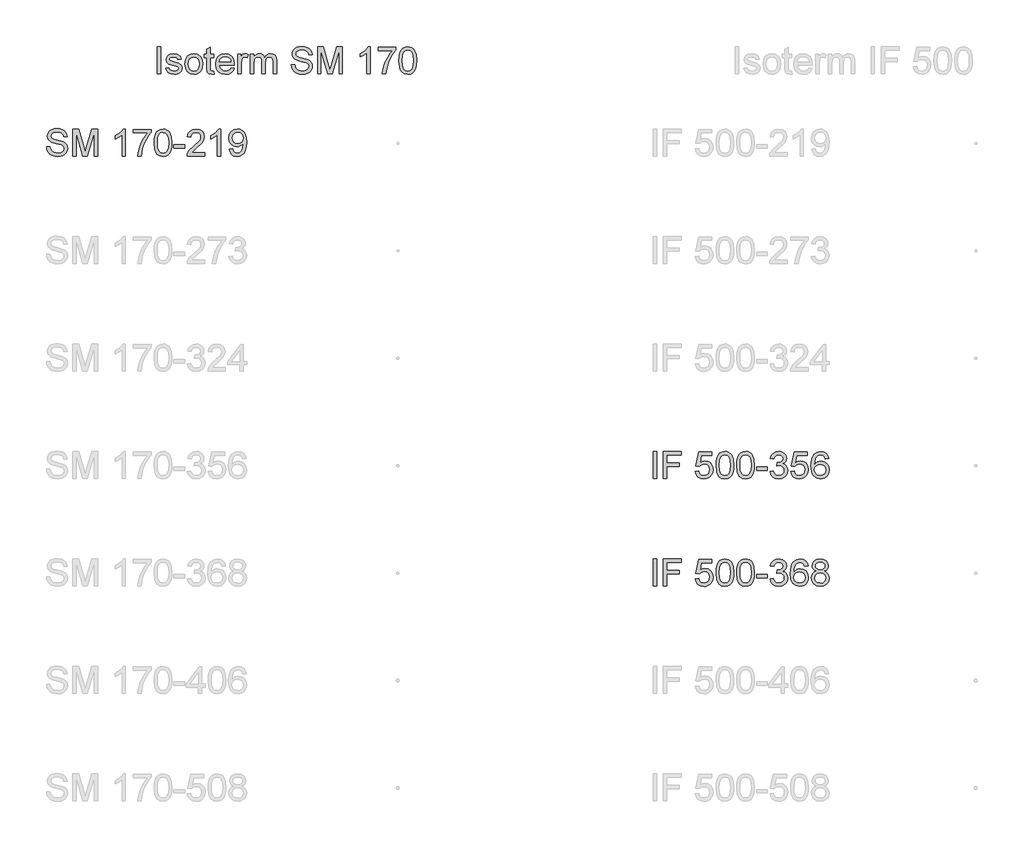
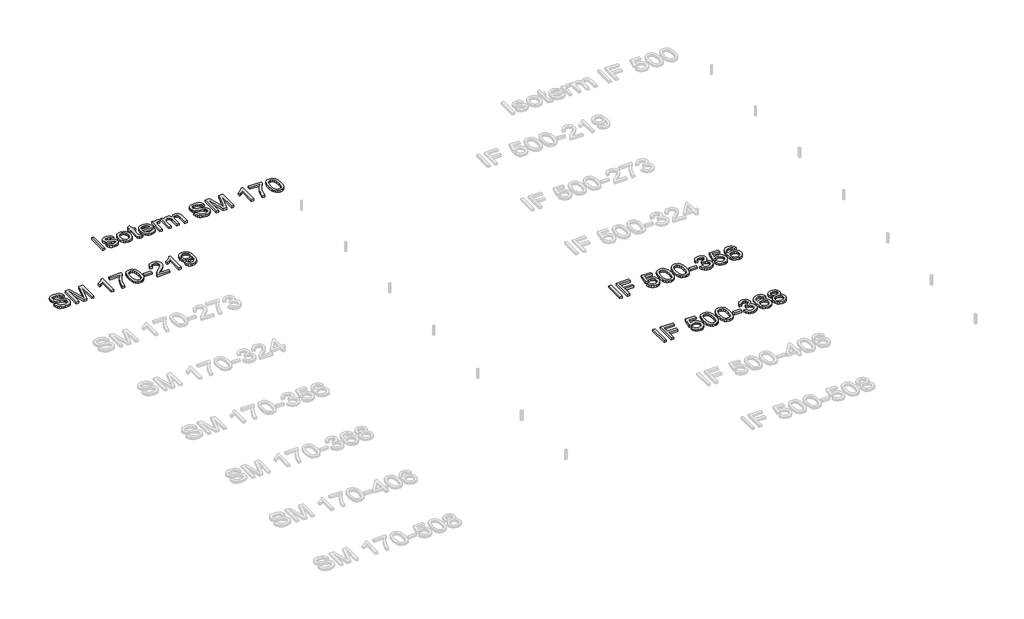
# One storey, part 4 of 10: 4 proxies.
"""IFC4 building model written with IfcOpenShell, lengths in millimetres."""

from ifc_helpers import new_model, si_unit, origin, origin_with_axes, place, context, project, spatial, polyline, outline, extrude, element, save

model = new_model("IFC4")

# Units and contexts
model_context = context("Model", 3, world=origin())
ifc_project = project(units=[si_unit("LENGTHUNIT", "METRE", prefix="MILLI")], contexts=[model_context])

# Site, building, storey
site = spatial("IfcSite", under=ifc_project)
building = spatial("IfcBuilding", under=site)
storey = spatial("IfcBuildingStorey", under=building, Name="Этаж 01", Elevation=0.0)

# Proxies
placement = place(None, origin())
element("IfcBuildingElementProxy", 1, Name="200 мм Arial", ObjectType="200 мм Arial", at=placement, inside=storey, context=model_context, shape_type="SweptSolid", body=[
    extrude(outline(polyline([(362.1098597, -725.9144615), (387.2239373, -725.9144615), (395.3173412, -751.0530645), (403.4475333, -759.9435461), (415.084867, -766.9455667), (429.3096375, -771.4889093), (445.2021397, -773.0033569), (471.4443887, -768.4170947), (488.3914859, -755.811005), (493.9587668, -738.9620096), (489.7894375, -723.2902366), (483.4373417, -717.091425), (472.7197129, -711.8858947), (436.1522426, -702.2964374), (396.7888691, -689.9110769), (384.2870127, -681.4620537), (375.427188, -671.2226715), (370.1480813, -659.4136595), (368.3883791, -646.2557468), (370.5650143, -631.5465984), (377.0949197, -617.8307313), (387.8064171, -606.2056603), (402.5278283, -597.7688998), (420.1984268, -592.636946), (439.7574862, -590.9262947), (460.9474891, -592.7166538), (479.4887417, -598.0877309), (494.7190563, -606.9291615), (505.9762453, -619.130581), (513.1008933, -633.9317), (515.9335846, -650.5722289), (490.8195071, -650.5722289), (486.2087194, -635.5871689), (476.5947366, -624.7714383), (461.5728885, -618.2231388), (440.7385048, -616.0403723), (419.4136118, -618.1986133), (404.7841712, -624.6733364), (396.3228853, -634.2014801), (393.5024567, -645.5199828), (395.5012822, -655.1707538), (401.4977587, -662.9330639), (415.6734782, -669.8737709), (442.5043384, -676.9616307), (486.9444834, -689.5677204), (501.2612244, -698.6789311), (511.2492206, -709.9238574), (517.1169384, -723.179872), (519.0728443, -738.3243475), (516.8226328, -753.8060481), (510.0719982, -768.3680437), (499.096852, -780.900557), (484.1731057, -790.2938107), (466.2265957, -796.1615285), (446.1831584, -798.1174344), (421.5779843, -796.0082443), (401.3260804, -789.680674), (385.1944549, -779.110198), (372.9501159, -764.2722909), (365.0897039, -746.1970222), (362.1098597, -725.9144615)])), origin_with_axes(), (0.0, 0.0, 1.0), 20.0),
    extrude(outline(polyline([(556.7439606, -794.9781747), (556.7439606, -594.0655544), (599.9578323, -594.0655544), (641.0625139, -735.6755971), (649.3521216, -765.2533095), (658.3284422, -733.2230505), (698.7464108, -594.0655544), (741.9602825, -594.0655544), (741.9602825, -794.9781747), (716.8462049, -794.9781747), (716.8462049, -619.179632), (666.3727952, -794.9781747), (632.3314479, -794.9781747), (581.8580382, -619.179632), (581.8580382, -794.9781747), (556.7439606, -794.9781747)])), origin_with_axes(), (0.0, 0.0, 1.0), 20.0),
    extrude(outline(polyline([(949.1514222, -794.9781747), (924.0373446, -794.9781747), (924.0373446, -638.4075976), (900.2476423, -655.3546948), (873.8091896, -668.0343609), (873.8091896, -644.2937095), (910.6219145, -620.7983127), (924.0925269, -607.2234671), (932.9646144, -594.0655544), (949.1514222, -594.0655544), (949.1514222, -794.9781747)])), origin_with_axes(), (0.0, 0.0, 1.0), 20.0),
    extrude(outline(polyline([(1008.7973563, -622.3188917), (1008.7973563, -597.2048141), (1140.6462634, -597.2048141), (1140.6462634, -617.5119003), (1121.8536248, -641.2954712), (1103.2449272, -671.5415026), (1086.8312589, -705.4908794), (1074.623708, -740.3844866), (1065.3040308, -794.9781747), (1040.1899532, -794.9781747), (1042.9061486, -769.091545), (1050.171818, -738.3243475), (1061.7907577, -705.7116086), (1077.566764, -674.2883548), (1095.9853892, -645.8817334), (1115.5321859, -622.3188917), (1008.7973563, -622.3188917)])), origin_with_axes(), (0.0, 0.0, 1.0), 20.0),
    extrude(outline(polyline([(1162.6210812, -696.1405454), (1164.4666226, -663.9815276), (1170.0032466, -638.3340212), (1179.175771, -618.8056186), (1191.9290135, -605.0039124), (1208.3549446, -596.8001439), (1228.5455348, -594.0655544), (1244.021104, -595.6842352), (1257.8779925, -600.5402775), (1269.4662754, -608.4436091), (1278.1360277, -619.2041574), (1289.9082516, -648.9290226), (1294.4699883, -696.1405454), (1292.6428411, -728.1156221), (1287.1613993, -753.7018149), (1278.0440572, -773.2486115), (1265.3092088, -787.1055), (1248.8464895, -795.3644508), (1228.5455348, -798.1174344), (1202.4504386, -793.3349685), (1182.6338618, -778.9875707), (1173.8782703, -763.8584236), (1167.6242764, -745.007537), (1162.6210812, -696.1405454)]), holes=[polyline([(1187.7351588, -696.0914944), (1190.6782147, -735.5958893), (1199.5073826, -758.4597553), (1212.6530326, -769.3674565), (1228.5455348, -773.0033569), (1244.438037, -769.3551938), (1257.5836869, -758.4107044), (1266.4128548, -735.5345757), (1269.3559108, -696.0914944), (1266.5109567, -657.4761477), (1257.9760944, -634.434472), (1244.8549699, -622.993342), (1228.2512292, -619.179632), (1212.5304052, -622.5396209), (1199.8997901, -632.6195875), (1190.7763166, -657.0960029), (1187.7351588, -696.0914944)])]), origin_with_axes(), (0.0, 0.0, 1.0), 20.0),
    extrude(outline(polyline([(1310.1662868, -735.3322406), (1310.1662868, -710.218163), (1388.6477791, -710.218163), (1388.6477791, -735.3322406), (1310.1662868, -735.3322406)])), origin_with_axes(), (0.0, 0.0, 1.0), 20.0),
    extrude(outline(polyline([(1539.3322443, -769.8640972), (1539.3322443, -794.9781747), (1407.4833372, -794.9781747), (1410.1811385, -777.6631955), (1425.4359786, -751.0040136), (1456.8776264, -721.892285), (1500.2386509, -680.0518394), (1508.368843, -665.6308652), (1511.0789071, -651.6022985), (1508.5221272, -639.0268656), (1500.8517876, -628.5728856), (1489.0611697, -621.5279454), (1474.1435548, -619.179632), (1458.4779131, -621.4727631), (1446.3071504, -628.3521564), (1438.4528699, -639.2782516), (1435.7366745, -653.7114886), (1410.6225969, -650.5722289), (1416.7110439, -626.2797545), (1429.875088, -608.5355796), (1449.428016, -597.6830607), (1474.683115, -594.0655544), (1500.122155, -598.0877309), (1519.6382948, -610.1542603), (1532.0543122, -628.1804781), (1536.1929846, -650.0817196), (1531.7293497, -673.8959474), (1516.8914426, -698.5195156), (1480.9125835, -732.9287449), (1452.0215841, -757.0863292), (1440.6908187, -769.8640972), (1539.3322443, -769.8640972)])), origin_with_axes(), (0.0, 0.0, 1.0), 20.0),
    extrude(outline(polyline([(1658.6241126, -794.9781747), (1633.5100351, -794.9781747), (1633.5100351, -638.4075976), (1609.7203327, -655.3546948), (1583.28188, -668.0343609), (1583.28188, -644.2937095), (1620.094605, -620.7983127), (1633.5652174, -607.2234671), (1642.4373048, -594.0655544), (1658.6241126, -594.0655544), (1658.6241126, -794.9781747)])), origin_with_axes(), (0.0, 0.0, 1.0), 20.0),
    extrude(outline(polyline([(1721.4093064, -744.7500196), (1746.523384, -741.61076), (1750.8153406, -755.8661873), (1757.8050985, -765.5721406), (1767.3209794, -771.1455528), (1779.1913052, -773.0033569), (1799.5229168, -768.2208909), (1813.3062288, -755.443123), (1821.5222601, -733.6154579), (1825.1520291, -704.4792039), (1825.0048763, -699.5741106), (1816.3044671, -710.1936376), (1804.9185193, -718.6058725), (1791.6686362, -724.0873143), (1777.3764206, -725.9144615), (1754.4757664, -721.4508266), (1735.4133477, -708.059922), (1722.555872, -687.3726911), (1718.2700468, -661.0200775), (1722.7643385, -633.7968099), (1736.2472136, -612.4596542), (1756.4991174, -598.6640794), (1781.3004953, -594.0655544), (1800.0318202, -596.6897793), (1817.0831507, -604.562454), (1831.3447093, -617.2911711), (1841.7067189, -634.483523), (1848.0158951, -658.2486999), (1850.1189538, -690.6958918), (1848.0220264, -725.0989897), (1841.7312443, -751.6907266), (1831.3017898, -771.6728503), (1816.7888451, -786.2471087), (1798.8178096, -795.149853), (1778.0140828, -798.1174344), (1756.542037, -794.6164241), (1739.4109987, -784.1133931), (1727.4303084, -767.2705291), (1721.4093064, -744.7500196)]), holes=[polyline([(1825.0048763, -660.4314664), (1822.2948123, -643.4107927), (1814.1646202, -630.3141937), (1801.5462677, -621.9632724), (1785.3717227, -619.179632), (1768.5963037, -622.1778702), (1755.1563481, -631.172585), (1746.3271802, -644.937503), (1743.3841243, -662.2463509), (1746.1677647, -677.7648397), (1754.518686, -690.0827552), (1767.6275478, -698.1209768), (1784.6850096, -700.800384), (1800.730796, -698.1209768), (1813.6495854, -690.0827552), (1822.1660536, -677.3111186), (1825.0048763, -660.4314664)])]), origin_with_axes(), (0.0, 0.0, 1.0), 20.0),
])
element("IfcBuildingElementProxy", 2, Name="200 мм Arial", ObjectType="200 мм Arial", at=placement, inside=storey, context=model_context, shape_type="SweptSolid", body=[
    extrude(outline(polyline([(1184.860356, -183.6730679), (1184.860356, 17.2395524), (1209.9744335, 17.2395524), (1209.9744335, -183.6730679), (1184.860356, -183.6730679)])), origin_with_axes(), (0.0, 0.0, 1.0), 20.0),
    extrude(outline(polyline([(1247.6455499, -139.7234322), (1272.7596274, -136.5841725), (1276.7204902, -147.3263267), (1284.3846984, -155.2235269), (1295.801303, -160.0795692), (1311.0193549, -161.69825), (1326.0534658, -160.2144593), (1336.6239418, -155.7630872), (1342.8779357, -149.3128895), (1344.9626003, -141.8326223), (1342.8656729, -135.4314756), (1336.5748908, -130.5509078), (1310.7250493, -123.3894716), (1272.9067802, -111.102213), (1263.3357169, -104.9279268), (1256.4011413, -96.7548151), (1250.7848095, -76.4967799), (1255.2974954, -57.7838491), (1267.6092795, -43.4855022), (1283.575358, -36.0542859), (1305.1822939, -32.9886026), (1335.741025, -37.9182214), (1347.1698923, -43.7184942), (1355.1651943, -51.2600751), (1363.7981585, -73.7989786), (1338.6840809, -76.9382383), (1335.5141644, -69.0349068), (1329.2417764, -63.0813498), (1307.1443312, -58.1026802), (1292.723357, -59.2921653), (1283.1093742, -62.8606207), (1277.7015089, -68.0109686), (1275.8988871, -73.9461314), (1278.890994, -81.2547204), (1288.2597221, -86.7974758), (1309.8911834, -92.1440275), (1346.7529594, -103.9653022), (1363.8717349, -117.3562069), (1368.5254421, -127.2031816), (1370.0766778, -139.1838719), (1368.255662, -151.5692324), (1362.7926143, -163.2188289), (1353.8960014, -173.2190878), (1341.7742897, -180.6564355), (1327.1325863, -185.2733545), (1310.6759984, -186.8123276), (1285.3534544, -183.8447461), (1266.8735155, -174.9420018), (1254.5372059, -160.2021966), (1247.6455499, -139.7234322)])), origin_with_axes(), (0.0, 0.0, 1.0), 20.0),
    extrude(outline(polyline([(1392.0514957, -109.9004651), (1397.4838865, -74.3262762), (1404.274375, -60.5031102), (1413.7810589, -49.3225632), (1433.9164667, -37.0720928), (1458.0250002, -32.9886026), (1484.4082706, -37.9611409), (1505.4817775, -52.8787558), (1519.2957465, -76.564225), (1523.9004028, -107.8403259), (1521.8647891, -133.2119209), (1515.7579479, -152.5257256), (1505.757689, -166.9896194), (1492.041822, -177.8114814), (1475.750781, -184.562116), (1458.0250002, -186.8123276), (1431.3228987, -181.8581834), (1410.2739172, -166.9957508), (1396.6071011, -142.8136409), (1392.0514957, -109.9004651)]), holes=[polyline([(1417.1655732, -109.8514142), (1420.071841, -132.5803901), (1428.7906443, -148.7733293), (1441.9117688, -158.4670198), (1458.0250002, -161.69825), (1474.0646552, -158.4486257), (1487.1612542, -148.6997529), (1495.8800575, -132.2922159), (1498.7863252, -109.0665992), (1495.8616634, -86.9998109), (1487.0876778, -71.0276009), (1473.9726847, -61.3339104), (1458.0250002, -58.1026802), (1441.9117688, -61.3216476), (1428.7906443, -70.97855), (1420.071841, -87.134701), (1417.1655732, -109.8514142)])]), origin_with_axes(), (0.0, 0.0, 1.0), 20.0),
    extrude(outline(polyline([(1605.5211548, -162.7283196), (1608.6604145, -184.4088319), (1589.8739072, -186.8123276), (1568.8310571, -182.6429983), (1558.3341575, -171.7046403), (1555.2929997, -143.2060484), (1555.2929997, -61.2419399), (1536.4574415, -61.2419399), (1536.4574415, -36.1278623), (1555.2929997, -36.1278623), (1555.2929997, -0.2716305), (1580.4070772, 14.4927002), (1580.4070772, -36.1278623), (1605.5211548, -36.1278623), (1605.5211548, -61.2419399), (1580.4070772, -61.2419399), (1580.4070772, -142.4702844), (1581.7314524, -155.4197306), (1586.023409, -160.0059928), (1594.5827968, -161.69825), (1605.5211548, -162.7283196)])), origin_with_axes(), (0.0, 0.0, 1.0), 20.0),
    extrude(outline(polyline([(1733.9364965, -139.7234322), (1758.5600648, -142.8626919), (1749.6879773, -161.4162072), (1735.5306519, -175.2853584), (1716.4069195, -183.9305853), (1692.6356112, -186.8123276), (1663.1682634, -181.8397893), (1640.4944698, -166.9221744), (1626.0367074, -143.0282388), (1621.2174532, -111.1267384), (1626.0857583, -78.1522489), (1640.6906735, -53.4918925), (1663.0578988, -38.1144251), (1691.2131342, -32.9886026), (1718.4915841, -38.1021624), (1740.2885923, -53.4428416), (1754.5808078, -78.0541471), (1759.3448797, -110.9795856), (1759.1977269, -117.7486143), (1646.3315308, -117.7486143), (1650.6786697, -136.5473843), (1660.7770304, -150.3674846), (1675.3512888, -158.8655587), (1693.1261205, -161.69825), (1717.7496888, -156.4498002), (1726.8976877, -149.6439833), (1733.9364965, -139.7234322)]), holes=[polyline([(1646.3315308, -92.6345368), (1734.2308021, -92.6345368), (1730.8340251, -79.3662595), (1724.1753609, -69.874904), (1709.5336575, -61.0457361), (1691.1150323, -58.1026802), (1674.1863292, -60.4509936), (1660.1884192, -67.4959338), (1650.4579405, -78.4772113), (1646.3315308, -92.6345368)])]), origin_with_axes(), (0.0, 0.0, 1.0), 20.0),
    extrude(outline(polyline([(1784.4589572, -183.6730679), (1784.4589572, -36.1278623), (1806.4337751, -36.1278623), (1806.4337751, -57.9555274), (1822.0319717, -37.844645), (1837.7282701, -32.9886026), (1850.236258, -34.9261145), (1862.9404495, -40.73865), (1854.55274, -63.2530281), (1836.8944043, -58.1026802), (1822.6941592, -63.0568244), (1813.6442622, -76.7910855), (1809.5730348, -106.1235433), (1809.5730348, -183.6730679), (1784.4589572, -183.6730679)])), origin_with_axes(), (0.0, 0.0, 1.0), 20.0),
    extrude(outline(polyline([(1878.636748, -183.6730679), (1878.636748, -36.1278623), (1903.7508255, -36.1278623), (1903.7508255, -60.408074), (1911.3046692, -49.2551182), (1921.0167538, -40.5179208), (1932.5559857, -34.8709322), (1945.5912711, -32.9886026), (1959.5585242, -34.9077204), (1970.7543996, -40.6650736), (1979.1175836, -49.8805176), (1984.5867626, -62.1739076), (1993.7408929, -49.4053367), (2004.1826102, -40.2849289), (2015.9119145, -34.8126842), (2028.9288057, -32.9886026), (2047.8072835, -36.0236291), (2061.7684052, -45.1287085), (2070.395238, -60.5490954), (2073.2708489, -82.5300447), (2073.2708489, -183.6730679), (2048.1567714, -183.6730679), (2048.1567714, -93.3212499), (2045.8268521, -72.3519761), (2037.3900916, -62.0267548), (2023.0426938, -58.1026802), (2009.4371914, -60.6165405), (1998.3455492, -68.1581214), (1990.9695152, -81.2424577), (1988.5108372, -100.3845842), (1988.5108372, -183.6730679), (1963.3967597, -183.6730679), (1963.3967597, -90.5253467), (1961.9436258, -76.3251017), (1957.5842241, -66.1960841), (1949.9138845, -60.1260312), (1938.5279368, -58.1026802), (1919.9376333, -63.4982828), (1912.5799934, -70.1446842), (1907.5767983, -79.2926831), (1903.7508255, -109.262803), (1903.7508255, -183.6730679), (1878.636748, -183.6730679)])), origin_with_axes(), (0.0, 0.0, 1.0), 20.0),
    extrude(outline(polyline([(2183.1449381, -114.6093546), (2208.2590157, -114.6093546), (2216.3524196, -139.7479576), (2224.4826116, -148.6384392), (2236.1199454, -155.6404598), (2250.3447159, -160.1838025), (2266.2372181, -161.69825), (2292.4794671, -157.1119878), (2309.4265643, -144.5058981), (2314.9938452, -127.6569027), (2310.8245159, -111.9851297), (2304.4724201, -105.7863181), (2293.7547913, -100.5807879), (2257.187321, -90.9913306), (2217.8239475, -78.60597), (2205.3220911, -70.1569469), (2196.4622663, -59.9175647), (2191.1831597, -48.1085526), (2189.4234575, -34.95064), (2191.6000926, -20.2414915), (2198.1299981, -6.5256245), (2208.8414955, 5.0994466), (2223.5629067, 13.536207), (2241.2335052, 18.6681608), (2260.7925646, 20.3788121), (2281.9825675, 18.5884531), (2300.52382, 13.217376), (2315.7541346, 4.3759453), (2327.0113237, -7.8254742), (2334.1359717, -22.6265931), (2336.968663, -39.267122), (2311.8545855, -39.267122), (2307.2437978, -24.2820621), (2297.629815, -13.4663314), (2282.6079669, -6.9180319), (2261.7735832, -4.7352654), (2240.4486902, -6.8935065), (2225.8192496, -13.3682296), (2217.3579637, -22.8963732), (2214.537535, -34.214876), (2216.5363606, -43.865647), (2222.5328371, -51.6279571), (2236.7085566, -58.568664), (2263.5394168, -65.6565238), (2307.9795618, -78.2626135), (2322.2963028, -87.3738243), (2332.284299, -98.6187506), (2338.1520168, -111.8747651), (2340.1079227, -127.0192406), (2337.8577112, -142.5009412), (2331.1070766, -157.0629369), (2320.1319304, -169.5954502), (2305.2081841, -178.9887038), (2287.2616741, -184.8564216), (2267.2182368, -186.8123276), (2242.6130626, -184.7031375), (2222.3611588, -178.3755671), (2206.2295333, -167.8050911), (2193.9851942, -152.967184), (2186.1247823, -134.8919153), (2183.1449381, -114.6093546)])), origin_with_axes(), (0.0, 0.0, 1.0), 20.0),
    extrude(outline(polyline([(2377.779039, -183.6730679), (2377.779039, 17.2395524), (2420.9929107, 17.2395524), (2462.0975923, -124.3704902), (2470.3872, -153.9482027), (2479.3635206, -121.9179436), (2519.7814892, 17.2395524), (2562.9953609, 17.2395524), (2562.9953609, -183.6730679), (2537.8812833, -183.6730679), (2537.8812833, -7.8745251), (2487.4078736, -183.6730679), (2453.3665263, -183.6730679), (2402.8931166, -7.8745251), (2402.8931166, -183.6730679), (2377.779039, -183.6730679)])), origin_with_axes(), (0.0, 0.0, 1.0), 20.0),
    extrude(outline(polyline([(2770.1865006, -183.6730679), (2745.072423, -183.6730679), (2745.072423, -27.1024907), (2721.2827207, -44.049588), (2694.8442679, -56.7292541), (2694.8442679, -32.9886026), (2731.6569929, -9.4932059), (2745.1276053, 4.0816397), (2753.9996928, 17.2395524), (2770.1865006, 17.2395524), (2770.1865006, -183.6730679)])), origin_with_axes(), (0.0, 0.0, 1.0), 20.0),
    extrude(outline(polyline([(2829.8324347, -11.0137848), (2829.8324347, 14.1002927), (2961.6813418, 14.1002927), (2961.6813418, -6.2067934), (2942.8887032, -29.9903644), (2924.2800056, -60.2363958), (2907.8663373, -94.1857725), (2895.6587864, -129.0793798), (2886.3391092, -183.6730679), (2861.2250316, -183.6730679), (2863.941227, -157.7864381), (2871.2068964, -127.0192406), (2882.8258361, -94.4065017), (2898.6018423, -62.983248), (2917.0204676, -34.5766266), (2936.5672642, -11.0137848), (2829.8324347, -11.0137848)])), origin_with_axes(), (0.0, 0.0, 1.0), 20.0),
    extrude(outline(polyline([(2983.6561596, -84.8354385), (2985.501701, -52.6764208), (2991.038325, -27.0289143), (3000.2108494, -7.5005117), (3012.9640919, 6.3011944), (3029.390023, 14.5049629), (3049.5806132, 17.2395524), (3065.0561824, 15.6208717), (3078.9130709, 10.7648293), (3090.5013538, 2.8614978), (3099.1711061, -7.8990506), (3110.94333, -37.6239158), (3115.5050667, -84.8354385), (3113.6779195, -116.8105152), (3108.1964777, -142.396708), (3099.0791356, -161.9435047), (3086.3442872, -175.8003932), (3069.8815679, -184.059344), (3049.5806132, -186.8123276), (3023.485517, -182.0298616), (3003.6689402, -167.6824638), (2994.9133487, -152.5533168), (2988.6593548, -133.7024302), (2983.6561596, -84.8354385)]), holes=[polyline([(3008.7702372, -84.7863876), (3011.7132931, -124.2907825), (3020.542461, -147.1546485), (3033.688111, -158.0623496), (3049.5806132, -161.69825), (3065.4731154, -158.0500869), (3078.6187653, -147.1055975), (3087.4479332, -124.2294688), (3090.3909892, -84.7863876), (3087.5460351, -46.1710408), (3079.0111728, -23.1293652), (3065.8900483, -11.6882351), (3049.2863076, -7.8745251), (3033.5654836, -11.234514), (3020.9348685, -21.3144807), (3011.811395, -45.7908961), (3008.7702372, -84.7863876)])]), origin_with_axes(), (0.0, 0.0, 1.0), 20.0),
])
element("IfcBuildingElementProxy", 3, Name="200 мм Arial", ObjectType="200 мм Arial", at=placement, inside=storey, context=model_context, shape_type="SweptSolid", body=[
    extrude(outline(polyline([(4874.6668985, -3194.9781747), (4874.6668985, -2994.0655544), (4899.780976, -2994.0655544), (4899.780976, -3194.9781747), (4874.6668985, -3194.9781747)])), origin_with_axes(), (0.0, 0.0, 1.0), 20.0),
    extrude(outline(polyline([(4950.0091311, -3194.9781747), (4950.0091311, -2994.0655544), (5084.9972979, -2994.0655544), (5084.9972979, -3019.179632), (4975.1232086, -3019.179632), (4975.1232086, -3078.8255661), (5069.3009994, -3078.8255661), (5069.3009994, -3103.9396437), (4975.1232086, -3103.9396437), (4975.1232086, -3194.9781747), (4950.0091311, -3194.9781747)])), origin_with_axes(), (0.0, 0.0, 1.0), 20.0),
    extrude(outline(polyline([(5188.5928677, -3141.61076), (5213.7069453, -3138.4715003), (5218.3177329, -3153.5485307), (5226.3620859, -3164.3458673), (5237.8032159, -3170.8389845), (5252.6043349, -3173.0033569), (5270.6060272, -3169.9928559), (5284.0950337, -3160.9613529), (5292.5195314, -3146.9511803), (5295.3276973, -3129.0046703), (5292.697341, -3112.1066239), (5284.8062722, -3099.1817032), (5271.5931772, -3090.9779347), (5252.9967423, -3088.2433452), (5230.9483481, -3092.6088782), (5216.8462049, -3103.9396437), (5191.7321274, -3100.800384), (5213.7069453, -2997.2048141), (5311.0239957, -2997.2048141), (5311.0239957, -3022.3188917), (5234.0140314, -3022.3188917), (5223.2718771, -3077.6483437), (5241.2122558, -3066.7590367), (5260.0110257, -3063.1292677), (5283.4757656, -3067.6296907), (5302.9551173, -3081.13096), (5316.0701104, -3101.7078262), (5320.4417748, -3127.4350404), (5316.5054374, -3152.5491179), (5304.6964254, -3174.0334265), (5294.2608395, -3184.5701799), (5282.0839454, -3192.0964324), (5268.1657433, -3196.6121839), (5252.506233, -3198.1174344), (5227.8397452, -3194.2485421), (5208.1887153, -3182.6418652), (5194.7181029, -3164.6463042), (5188.5928677, -3141.61076)])), origin_with_axes(), (0.0, 0.0, 1.0), 20.0),
    extrude(outline(polyline([(5342.4165926, -3096.1405454), (5344.262134, -3063.9815276), (5349.798758, -3038.3340212), (5358.9712824, -3018.8056186), (5371.7245249, -3005.0039124), (5388.150456, -2996.8001439), (5408.3410462, -2994.0655544), (5423.8166154, -2995.6842352), (5437.6735039, -3000.5402775), (5449.2617868, -3008.4436091), (5457.9315391, -3019.2041574), (5469.703763, -3048.9290226), (5474.2654997, -3096.1405454), (5472.4383525, -3128.1156221), (5466.9569107, -3153.7018149), (5457.8395686, -3173.2486115), (5445.1047202, -3187.1055), (5428.6420009, -3195.3644508), (5408.3410462, -3198.1174344), (5382.24595, -3193.3349685), (5362.4293732, -3178.9875707), (5353.6737817, -3163.8584236), (5347.4197878, -3145.007537), (5342.4165926, -3096.1405454)]), holes=[polyline([(5367.5306702, -3096.0914944), (5370.4737261, -3135.5958893), (5379.302894, -3158.4597553), (5392.448544, -3169.3674565), (5408.3410462, -3173.0033569), (5424.2335484, -3169.3551938), (5437.3791983, -3158.4107044), (5446.2083662, -3135.5345757), (5449.1514222, -3096.0914944), (5446.3064681, -3057.4761477), (5437.7716058, -3034.434472), (5424.6504813, -3022.993342), (5408.0467406, -3019.179632), (5392.3259166, -3022.5396209), (5379.6953015, -3032.6195875), (5370.571828, -3057.0960029), (5367.5306702, -3096.0914944)])]), origin_with_axes(), (0.0, 0.0, 1.0), 20.0),
    extrude(outline(polyline([(5496.2403175, -3096.1405454), (5498.0858589, -3063.9815276), (5503.6224829, -3038.3340212), (5512.7950073, -3018.8056186), (5525.5482498, -3005.0039124), (5541.9741809, -2996.8001439), (5562.1647711, -2994.0655544), (5577.6403403, -2995.6842352), (5591.4972288, -3000.5402775), (5603.0855117, -3008.4436091), (5611.755264, -3019.2041574), (5623.5274879, -3048.9290226), (5628.0892246, -3096.1405454), (5626.2620774, -3128.1156221), (5620.7806357, -3153.7018149), (5611.6632935, -3173.2486115), (5598.9284451, -3187.1055), (5582.4657259, -3195.3644508), (5562.1647711, -3198.1174344), (5536.0696749, -3193.3349685), (5516.2530981, -3178.9875707), (5507.4975066, -3163.8584236), (5501.2435127, -3145.007537), (5496.2403175, -3096.1405454)]), holes=[polyline([(5521.3543951, -3096.0914944), (5524.297451, -3135.5958893), (5533.1266189, -3158.4597553), (5546.2722689, -3169.3674565), (5562.1647711, -3173.0033569), (5578.0572733, -3169.3551938), (5591.2029232, -3158.4107044), (5600.0320911, -3135.5345757), (5602.9751471, -3096.0914944), (5600.130193, -3057.4761477), (5591.5953307, -3034.434472), (5578.4742062, -3022.993342), (5561.8704655, -3019.179632), (5546.1496416, -3022.5396209), (5533.5190264, -3032.6195875), (5524.3955529, -3057.0960029), (5521.3543951, -3096.0914944)])]), origin_with_axes(), (0.0, 0.0, 1.0), 20.0),
    extrude(outline(polyline([(5643.7855231, -3135.3322406), (5643.7855231, -3110.218163), (5722.2670154, -3110.218163), (5722.2670154, -3135.3322406), (5643.7855231, -3135.3322406)])), origin_with_axes(), (0.0, 0.0, 1.0), 20.0),
    extrude(outline(polyline([(5744.2418332, -3141.61076), (5769.3559108, -3138.4715003), (5774.9783739, -3154.2536379), (5783.2127993, -3164.909953), (5794.4638569, -3170.9800059), (5809.1362172, -3173.0033569), (5826.3530946, -3170.2197164), (5839.6458973, -3161.8687952), (5848.1439714, -3149.4098583), (5850.9766628, -3134.302171), (5848.1684969, -3119.9609045), (5839.7439992, -3108.3297021), (5826.9907567, -3100.6225743), (5811.1963564, -3098.0535317), (5793.5870715, -3100.800384), (5796.3829747, -3075.6863064), (5800.4051512, -3075.980612), (5815.4515248, -3074.1779902), (5828.9037431, -3068.7701249), (5838.3950985, -3059.622126), (5841.5588837, -3046.5991033), (5839.2657526, -3035.7527158), (5832.3863593, -3026.9542048), (5821.8894597, -3021.1232752), (5808.7438097, -3019.179632), (5795.5736343, -3021.1416693), (5784.8069546, -3027.0277812), (5776.9465426, -3036.8379677), (5772.4951705, -3050.5722289), (5747.3810929, -3047.4329692), (5754.775521, -3024.8818029), (5767.9334337, -3008.0450702), (5785.935126, -2997.5604334), (5807.8608929, -2994.0655544), (5823.6491619, -2995.7884684), (5838.1498439, -3000.9572105), (5850.3757888, -3009.111928), (5859.3398468, -3019.7927686), (5864.8396826, -3032.0984214), (5866.6729612, -3045.1275754), (5864.9316531, -3057.2676812), (5859.7077288, -3068.2796156), (5851.0747646, -3077.6606065), (5839.1063371, -3084.9078818), (5854.827161, -3091.2599776), (5866.4767575, -3102.0757082), (5873.6872446, -3116.7664625), (5876.0907403, -3134.7436294), (5871.2837489, -3159.2200448), (5856.8627747, -3179.6742837), (5835.0964233, -3193.5066467), (5808.2533004, -3198.1174344), (5783.9730887, -3194.1810971), (5764.2055628, -3182.372085), (5750.459039, -3164.3090791), (5744.2418332, -3141.61076)])), origin_with_axes(), (0.0, 0.0, 1.0), 20.0),
    extrude(outline(polyline([(5898.0655581, -3141.61076), (5923.1796357, -3138.4715003), (5927.7904234, -3153.5485307), (5935.8347763, -3164.3458673), (5947.2759064, -3170.8389845), (5962.0770253, -3173.0033569), (5980.0787176, -3169.9928559), (5993.5677241, -3160.9613529), (6001.9922218, -3146.9511803), (6004.8003877, -3129.0046703), (6002.1700314, -3112.1066239), (5994.2789626, -3099.1817032), (5981.0658676, -3090.9779347), (5962.4694328, -3088.2433452), (5940.4210385, -3092.6088782), (5926.3188954, -3103.9396437), (5901.2048178, -3100.800384), (5923.1796357, -2997.2048141), (6020.4966861, -2997.2048141), (6020.4966861, -3022.3188917), (5943.4867218, -3022.3188917), (5932.7445676, -3077.6483437), (5950.6849462, -3066.7590367), (5969.4837161, -3063.1292677), (5992.9484561, -3067.6296907), (6012.4278077, -3081.13096), (6025.5428008, -3101.7078262), (6029.9144652, -3127.4350404), (6025.9781279, -3152.5491179), (6014.1691158, -3174.0334265), (6003.7335299, -3184.5701799), (5991.5566359, -3192.0964324), (5977.6384337, -3196.6121839), (5961.9789234, -3198.1174344), (5937.3124357, -3194.2485421), (5917.6614058, -3182.6418652), (5904.1907934, -3164.6463042), (5898.0655581, -3141.61076)])), origin_with_axes(), (0.0, 0.0, 1.0), 20.0),
    extrude(outline(polyline([(6180.5989304, -3047.4329692), (6155.4848529, -3050.5722289), (6145.968972, -3029.6274806), (6134.5768928, -3021.7915941), (6120.8058435, -3019.179632), (6098.1443126, -3025.2619476), (6088.7081394, -3034.8697991), (6081.0010116, -3048.0951568), (6075.7954814, -3066.8019562), (6073.8641009, -3092.8541329), (6083.9379362, -3081.1003031), (6096.010597, -3072.8168269), (6109.407633, -3067.9056022), (6123.4545939, -3066.2685273), (6146.655685, -3070.744425), (6166.1289053, -3084.1721178), (6179.3358689, -3104.6876704), (6183.7381901, -3130.4271473), (6181.6657882, -3148.4104455), (6175.4485825, -3165.0816312), (6165.6016078, -3179.2205626), (6152.6398988, -3189.6070976), (6137.1520668, -3195.9898502), (6119.726723, -3198.1174344), (6091.2342624, -3192.4765772), (6068.5420747, -3175.5540054), (6059.8830523, -3162.4451436), (6053.6980362, -3145.6819874), (6048.7500234, -3101.1927914), (6054.2437278, -3051.1731028), (6061.1108584, -3032.0953557), (6070.7248412, -3016.97234), (6081.1450987, -3006.9506213), (6093.2269566, -2999.7922508), (6122.3754733, -2994.0655544), (6144.4116049, -2997.6094843), (6162.0576779, -3008.241274), (6174.4185129, -3025.1270576), (6180.5989304, -3047.4329692)]), holes=[polyline([(6073.8641009, -3130.0347398), (6079.6766364, -3151.7888285), (6095.1276802, -3167.5832288), (6117.7646857, -3173.0033569), (6134.3377696, -3170.195191), (6147.3669235, -3161.7706933), (6155.8098153, -3148.5269415), (6158.6241126, -3131.2610132), (6155.8466035, -3114.6879293), (6147.5140763, -3102.0511827), (6134.2641932, -3094.0497493), (6116.7346161, -3091.3826049), (6100.1860577, -3094.0497493), (6086.3475633, -3102.0511827), (6076.9849665, -3114.3813609), (6073.8641009, -3130.0347398)])]), origin_with_axes(), (0.0, 0.0, 1.0), 20.0),
])
element("IfcBuildingElementProxy", 4, Name="200 мм Arial", ObjectType="200 мм Arial", at=placement, inside=storey, context=model_context, shape_type="SweptSolid", body=[
    extrude(outline(polyline([(4874.6668985, -3994.9781747), (4874.6668985, -3794.0655544), (4899.780976, -3794.0655544), (4899.780976, -3994.9781747), (4874.6668985, -3994.9781747)])), origin_with_axes(), (0.0, 0.0, 1.0), 20.0),
    extrude(outline(polyline([(4950.0091311, -3994.9781747), (4950.0091311, -3794.0655544), (5084.9972979, -3794.0655544), (5084.9972979, -3819.179632), (4975.1232086, -3819.179632), (4975.1232086, -3878.8255661), (5069.3009994, -3878.8255661), (5069.3009994, -3903.9396437), (4975.1232086, -3903.9396437), (4975.1232086, -3994.9781747), (4950.0091311, -3994.9781747)])), origin_with_axes(), (0.0, 0.0, 1.0), 20.0),
    extrude(outline(polyline([(5188.5928677, -3941.61076), (5213.7069453, -3938.4715003), (5218.3177329, -3953.5485307), (5226.3620859, -3964.3458673), (5237.8032159, -3970.8389845), (5252.6043349, -3973.0033569), (5270.6060272, -3969.9928559), (5284.0950337, -3960.9613529), (5292.5195314, -3946.9511803), (5295.3276973, -3929.0046703), (5292.697341, -3912.1066239), (5284.8062722, -3899.1817032), (5271.5931772, -3890.9779347), (5252.9967423, -3888.2433452), (5230.9483481, -3892.6088782), (5216.8462049, -3903.9396437), (5191.7321274, -3900.800384), (5213.7069453, -3797.2048141), (5311.0239957, -3797.2048141), (5311.0239957, -3822.3188917), (5234.0140314, -3822.3188917), (5223.2718771, -3877.6483437), (5241.2122558, -3866.7590367), (5260.0110257, -3863.1292677), (5283.4757656, -3867.6296907), (5302.9551173, -3881.13096), (5316.0701104, -3901.7078262), (5320.4417748, -3927.4350404), (5316.5054374, -3952.5491179), (5304.6964254, -3974.0334265), (5294.2608395, -3984.5701799), (5282.0839454, -3992.0964324), (5268.1657433, -3996.6121839), (5252.506233, -3998.1174344), (5227.8397452, -3994.2485421), (5208.1887153, -3982.6418652), (5194.7181029, -3964.6463042), (5188.5928677, -3941.61076)])), origin_with_axes(), (0.0, 0.0, 1.0), 20.0),
    extrude(outline(polyline([(5342.4165926, -3896.1405454), (5344.262134, -3863.9815276), (5349.798758, -3838.3340212), (5358.9712824, -3818.8056186), (5371.7245249, -3805.0039124), (5388.150456, -3796.8001439), (5408.3410462, -3794.0655544), (5423.8166154, -3795.6842352), (5437.6735039, -3800.5402775), (5449.2617868, -3808.4436091), (5457.9315391, -3819.2041574), (5469.703763, -3848.9290226), (5474.2654997, -3896.1405454), (5472.4383525, -3928.1156221), (5466.9569107, -3953.7018149), (5457.8395686, -3973.2486115), (5445.1047202, -3987.1055), (5428.6420009, -3995.3644508), (5408.3410462, -3998.1174344), (5382.24595, -3993.3349685), (5362.4293732, -3978.9875707), (5353.6737817, -3963.8584236), (5347.4197878, -3945.007537), (5342.4165926, -3896.1405454)]), holes=[polyline([(5367.5306702, -3896.0914944), (5370.4737261, -3935.5958893), (5379.302894, -3958.4597553), (5392.448544, -3969.3674565), (5408.3410462, -3973.0033569), (5424.2335484, -3969.3551938), (5437.3791983, -3958.4107044), (5446.2083662, -3935.5345757), (5449.1514222, -3896.0914944), (5446.3064681, -3857.4761477), (5437.7716058, -3834.434472), (5424.6504813, -3822.993342), (5408.0467406, -3819.179632), (5392.3259166, -3822.5396209), (5379.6953015, -3832.6195875), (5370.571828, -3857.0960029), (5367.5306702, -3896.0914944)])]), origin_with_axes(), (0.0, 0.0, 1.0), 20.0),
    extrude(outline(polyline([(5496.2403175, -3896.1405454), (5498.0858589, -3863.9815276), (5503.6224829, -3838.3340212), (5512.7950073, -3818.8056186), (5525.5482498, -3805.0039124), (5541.9741809, -3796.8001439), (5562.1647711, -3794.0655544), (5577.6403403, -3795.6842352), (5591.4972288, -3800.5402775), (5603.0855117, -3808.4436091), (5611.755264, -3819.2041574), (5623.5274879, -3848.9290226), (5628.0892246, -3896.1405454), (5626.2620774, -3928.1156221), (5620.7806357, -3953.7018149), (5611.6632935, -3973.2486115), (5598.9284451, -3987.1055), (5582.4657259, -3995.3644508), (5562.1647711, -3998.1174344), (5536.0696749, -3993.3349685), (5516.2530981, -3978.9875707), (5507.4975066, -3963.8584236), (5501.2435127, -3945.007537), (5496.2403175, -3896.1405454)]), holes=[polyline([(5521.3543951, -3896.0914944), (5524.297451, -3935.5958893), (5533.1266189, -3958.4597553), (5546.2722689, -3969.3674565), (5562.1647711, -3973.0033569), (5578.0572733, -3969.3551938), (5591.2029232, -3958.4107044), (5600.0320911, -3935.5345757), (5602.9751471, -3896.0914944), (5600.130193, -3857.4761477), (5591.5953307, -3834.434472), (5578.4742062, -3822.993342), (5561.8704655, -3819.179632), (5546.1496416, -3822.5396209), (5533.5190264, -3832.6195875), (5524.3955529, -3857.0960029), (5521.3543951, -3896.0914944)])]), origin_with_axes(), (0.0, 0.0, 1.0), 20.0),
    extrude(outline(polyline([(5643.7855231, -3935.3322406), (5643.7855231, -3910.218163), (5722.2670154, -3910.218163), (5722.2670154, -3935.3322406), (5643.7855231, -3935.3322406)])), origin_with_axes(), (0.0, 0.0, 1.0), 20.0),
    extrude(outline(polyline([(5744.2418332, -3941.61076), (5769.3559108, -3938.4715003), (5774.9783739, -3954.2536379), (5783.2127993, -3964.909953), (5794.4638569, -3970.9800059), (5809.1362172, -3973.0033569), (5826.3530946, -3970.2197164), (5839.6458973, -3961.8687952), (5848.1439714, -3949.4098583), (5850.9766628, -3934.302171), (5848.1684969, -3919.9609045), (5839.7439992, -3908.3297021), (5826.9907567, -3900.6225743), (5811.1963564, -3898.0535317), (5793.5870715, -3900.800384), (5796.3829747, -3875.6863064), (5800.4051512, -3875.980612), (5815.4515248, -3874.1779902), (5828.9037431, -3868.7701249), (5838.3950985, -3859.622126), (5841.5588837, -3846.5991033), (5839.2657526, -3835.7527158), (5832.3863593, -3826.9542048), (5821.8894597, -3821.1232752), (5808.7438097, -3819.179632), (5795.5736343, -3821.1416693), (5784.8069546, -3827.0277812), (5776.9465426, -3836.8379677), (5772.4951705, -3850.5722289), (5747.3810929, -3847.4329692), (5754.775521, -3824.8818029), (5767.9334337, -3808.0450702), (5785.935126, -3797.5604334), (5807.8608929, -3794.0655544), (5823.6491619, -3795.7884684), (5838.1498439, -3800.9572105), (5850.3757888, -3809.111928), (5859.3398468, -3819.7927686), (5864.8396826, -3832.0984214), (5866.6729612, -3845.1275754), (5864.9316531, -3857.2676812), (5859.7077288, -3868.2796156), (5851.0747646, -3877.6606065), (5839.1063371, -3884.9078818), (5854.827161, -3891.2599776), (5866.4767575, -3902.0757082), (5873.6872446, -3916.7664625), (5876.0907403, -3934.7436294), (5871.2837489, -3959.2200448), (5856.8627747, -3979.6742837), (5835.0964233, -3993.5066467), (5808.2533004, -3998.1174344), (5783.9730887, -3994.1810971), (5764.2055628, -3982.372085), (5750.459039, -3964.3090791), (5744.2418332, -3941.61076)])), origin_with_axes(), (0.0, 0.0, 1.0), 20.0),
    extrude(outline(polyline([(6026.7752055, -3847.4329692), (6001.661128, -3850.5722289), (5992.145247, -3829.6274806), (5980.7531679, -3821.7915941), (5966.9821186, -3819.179632), (5944.3205877, -3825.2619476), (5934.8844145, -3834.8697991), (5927.1772867, -3848.0951568), (5921.9717565, -3866.8019562), (5920.040376, -3892.8541329), (5930.1142113, -3881.1003031), (5942.1868721, -3872.8168269), (5955.5839081, -3867.9056022), (5969.6308689, -3866.2685273), (5992.8319601, -3870.744425), (6012.3051804, -3884.1721178), (6025.512144, -3904.6876704), (6029.9144652, -3930.4271473), (6027.8420633, -3948.4104455), (6021.6248576, -3965.0816312), (6011.7778829, -3979.2205626), (5998.8161739, -3989.6070976), (5983.3283419, -3995.9898502), (5965.9029981, -3998.1174344), (5937.4105375, -3992.4765772), (5914.7183498, -3975.5540054), (5906.0593273, -3962.4451436), (5899.8743113, -3945.6819874), (5894.9262985, -3901.1927914), (5900.4200029, -3851.1731028), (5907.2871335, -3832.0953557), (5916.9011163, -3816.97234), (5927.3213738, -3806.9506213), (5939.4032317, -3799.7922508), (5968.5517484, -3794.0655544), (5990.5878799, -3797.6094843), (6008.233953, -3808.241274), (6020.594788, -3825.1270576), (6026.7752055, -3847.4329692)]), holes=[polyline([(5920.040376, -3930.0347398), (5925.8529115, -3951.7888285), (5941.3039553, -3967.5832288), (5963.9409608, -3973.0033569), (5980.5140446, -3970.195191), (5993.5431986, -3961.7706933), (6001.9860904, -3948.5269415), (6004.8003877, -3931.2610132), (6002.0228786, -3914.6879293), (5993.6903514, -3902.0511827), (5980.4404682, -3894.0497493), (5962.9108912, -3891.3826049), (5946.3623327, -3894.0497493), (5932.5238384, -3902.0511827), (5923.1612416, -3914.3813609), (5920.040376, -3930.0347398)])]), origin_with_axes(), (0.0, 0.0, 1.0), 20.0),
    extrude(outline(polyline([(6088.4812789, -3884.3192706), (6075.0351919, -3877.6973947), (6065.5990188, -3868.721074), (6060.0256065, -3857.5742495), (6058.1678024, -3844.4408623), (6062.2145044, -3824.8082265), (6074.3546102, -3808.5846305), (6093.2269566, -3797.6953234), (6117.4703801, -3794.0655544), (6141.8609564, -3797.7811626), (6160.9785574, -3808.927987), (6173.3393924, -3825.4091004), (6177.4596708, -3845.1275754), (6175.6263921, -3857.8378983), (6170.1265563, -3868.7946504), (6160.8988496, -3877.7157888), (6147.8819583, -3884.3192706), (6163.3391335, -3892.2839158), (6174.5901912, -3904.0132201), (6181.4511904, -3918.9430977), (6183.7381901, -3936.509463), (6179.2009789, -3960.5198945), (6165.589345, -3980.3609968), (6144.5710204, -3993.678325), (6117.8137366, -3998.1174344), (6091.0564528, -3993.6599309), (6070.0381282, -3980.2874204), (6056.4264943, -3960.2562457), (6051.8892831, -3935.8227499), (6054.2682533, -3917.5758029), (6061.405164, -3902.5662175), (6072.9321332, -3891.3090285), (6088.4812789, -3884.3192706)]), holes=[polyline([(6077.0033606, -3934.9398331), (6081.1972153, -3953.8489677), (6087.0036195, -3961.9607657), (6096.0351225, -3968.0001617), (6118.0099403, -3973.0033569), (6135.1041904, -3970.3730006), (6147.9310093, -3962.4819318), (6155.9508368, -3950.5318983), (6158.6241126, -3935.724648), (6155.8649976, -3920.6660117), (6147.5876527, -3908.4523295), (6134.4665282, -3900.3589256), (6117.1760745, -3897.6611243), (6100.3209477, -3900.3221374), (6087.6228875, -3908.3051767), (6079.6582423, -3920.285867), (6077.0033606, -3934.9398331)]), polyline([(6083.28188, -3845.1766263), (6085.5075661, -3856.1395097), (6092.1846243, -3864.8951012), (6103.1168509, -3870.6340604), (6118.1080422, -3872.5470467), (6132.7497456, -3870.6463231), (6143.5164253, -3864.9441522), (6150.1383012, -3856.4828663), (6152.3455932, -3846.3047977), (6150.0647248, -3835.7404531), (6143.2221197, -3827.0032557), (6132.3082872, -3821.1355379), (6117.8137366, -3819.179632), (6103.2272155, -3821.0926183), (6092.3317771, -3826.8315775), (6085.5443543, -3835.2438124), (6083.28188, -3845.1766263)])]), origin_with_axes(), (0.0, 0.0, 1.0), 20.0),
])

save(model, "model.ifc")
